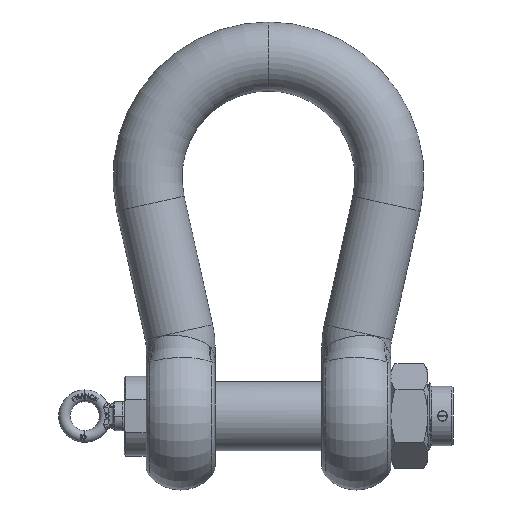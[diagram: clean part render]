
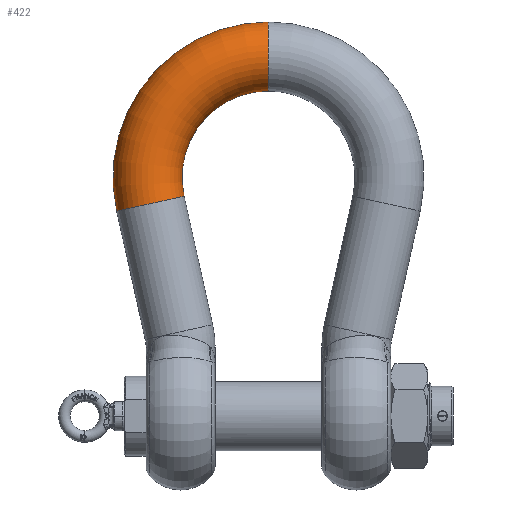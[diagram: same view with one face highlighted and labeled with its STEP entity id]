
A CAD part, top view. The second image highlights one B-rep face of the part: STEP entity #422.
In plain terms, the highlighted toroidal (fillet/blend) face has major radius 166.5 mm and minor radius 47.5 mm.
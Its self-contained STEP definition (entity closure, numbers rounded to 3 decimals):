
#422=ADVANCED_FACE('',(#1853),#1854,.T.);
#1853=FACE_OUTER_BOUND('',#6974,.T.);
#1854=TOROIDAL_SURFACE('',#6975,166.5,47.5);
#6974=EDGE_LOOP('',(#19925,#19926,#19927,#19928));
#6975=AXIS2_PLACEMENT_3D('',#19929,#19930,#19931);
#19925=ORIENTED_EDGE('',*,*,#26449,.F.);
#19926=ORIENTED_EDGE('',*,*,#26450,.F.);
#19927=ORIENTED_EDGE('',*,*,#26451,.F.);
#19928=ORIENTED_EDGE('',*,*,#26452,.T.);
#19929=CARTESIAN_POINT('',(79.878,611.129,348.611));
#19930=DIRECTION('',(0.,0.,-1.0));
#19931=DIRECTION('',(0.,-1.0,0.));
#26449=EDGE_CURVE('',#29990,#29991,#29992,.T.);
#26450=EDGE_CURVE('',#29993,#29990,#29994,.T.);
#26451=EDGE_CURVE('',#29995,#29993,#29996,.T.);
#26452=EDGE_CURVE('',#29995,#29991,#29997,.T.);
#29990=VERTEX_POINT('',#40554);
#29991=VERTEX_POINT('',#40555);
#29992=CIRCLE('',#40556,47.5);
#29993=VERTEX_POINT('',#40557);
#29994=CIRCLE('',#40558,214.0);
#29995=VERTEX_POINT('',#40559);
#29996=CIRCLE('',#40560,47.5);
#29997=CIRCLE('',#40561,119.0);
#40554=CARTESIAN_POINT('',(79.878,825.129,348.611));
#40555=CARTESIAN_POINT('',(79.878,730.129,348.611));
#40556=AXIS2_PLACEMENT_3D('',#55332,#55333,#55334);
#40557=CARTESIAN_POINT('',(-129.029,564.717,348.611));
#40558=AXIS2_PLACEMENT_3D('',#55335,#55336,#55337);
#40559=CARTESIAN_POINT('',(-36.29,585.321,348.611));
#40560=AXIS2_PLACEMENT_3D('',#55338,#55339,#55340);
#40561=AXIS2_PLACEMENT_3D('',#55341,#55342,#55343);
#55332=CARTESIAN_POINT('',(79.878,777.629,348.611));
#55333=DIRECTION('',(1.0,0.,0.));
#55334=DIRECTION('',(0.,1.0,0.));
#55335=CARTESIAN_POINT('',(79.878,611.129,348.611));
#55336=DIRECTION('',(0.,0.,-1.0));
#55337=DIRECTION('',(0.,-1.0,0.));
#55338=CARTESIAN_POINT('',(-82.659,575.019,348.611));
#55339=DIRECTION('',(0.217,-0.976,0.));
#55340=DIRECTION('',(-0.976,-0.217,0.));
#55341=CARTESIAN_POINT('',(79.878,611.129,348.611));
#55342=DIRECTION('',(0.,0.,-1.0));
#55343=DIRECTION('',(0.,-1.0,0.));
